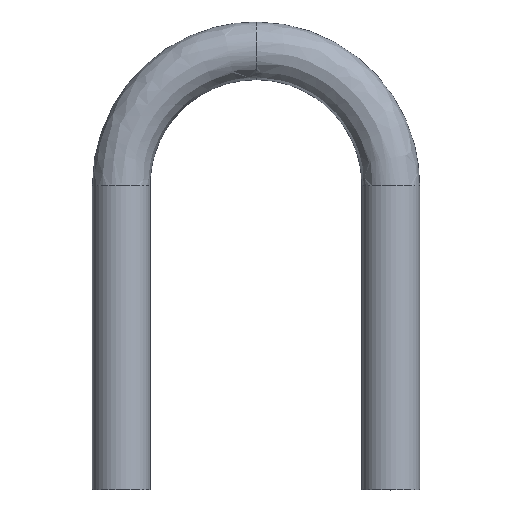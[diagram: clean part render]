
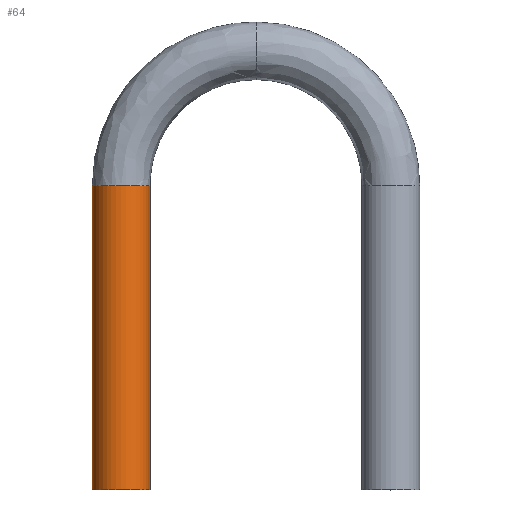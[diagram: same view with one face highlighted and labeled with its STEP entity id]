
A CAD part, top view. The second image highlights one B-rep face of the part: STEP entity #64.
In plain terms, the highlighted cylindrical face has radius 4.763 mm (diameter 9.525 mm), a partial arc.
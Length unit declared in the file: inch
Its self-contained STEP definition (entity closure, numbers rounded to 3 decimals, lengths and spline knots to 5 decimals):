
#64=ADVANCED_FACE('',(#117),#118,.T.);
#117=FACE_OUTER_BOUND('',#248,.T.);
#118=CYLINDRICAL_SURFACE('',#249,0.1875);
#248=EDGE_LOOP('',(#489,#490,#491,#492));
#249=AXIS2_PLACEMENT_3D('',#493,#494,#495);
#489=ORIENTED_EDGE('',*,*,#548,.F.);
#490=ORIENTED_EDGE('',*,*,#536,.T.);
#491=ORIENTED_EDGE('',*,*,#549,.F.);
#492=ORIENTED_EDGE('',*,*,#550,.T.);
#493=CARTESIAN_POINT('',(0.0,0.0,0.0));
#494=DIRECTION('',(-0.0,-1.0,-0.0));
#495=DIRECTION('',(-1.0,0.0,0.0));
#536=EDGE_CURVE('',#565,#566,#567,.T.);
#548=EDGE_CURVE('',#565,#585,#586,.T.);
#549=EDGE_CURVE('',#587,#566,#588,.T.);
#550=EDGE_CURVE('',#587,#585,#589,.T.);
#565=VERTEX_POINT('',#604);
#566=VERTEX_POINT('',#605);
#567=CIRCLE('',#606,0.1875);
#585=VERTEX_POINT('',#634);
#586=LINE('',#635,#636);
#587=VERTEX_POINT('',#637);
#588=LINE('',#638,#639);
#589=CIRCLE('',#640,0.1875);
#604=CARTESIAN_POINT('',(-0.1875,0.0,0.0));
#605=CARTESIAN_POINT('',(0.1875,0.0,0.));
#606=AXIS2_PLACEMENT_3D('',#666,#667,#668);
#634=CARTESIAN_POINT('',(-0.1875,1.975,0.0));
#635=CARTESIAN_POINT('',(-0.1875,0.0,0.));
#636=VECTOR('',#684,1.0);
#637=CARTESIAN_POINT('',(0.1875,1.975,0.));
#638=CARTESIAN_POINT('',(0.1875,0.0,0.));
#639=VECTOR('',#685,1.0);
#640=AXIS2_PLACEMENT_3D('',#686,#687,#688);
#666=CARTESIAN_POINT('',(0.0,0.0,0.0));
#667=DIRECTION('',(0.0,1.0,0.0));
#668=DIRECTION('',(-1.0,0.0,0.0));
#684=DIRECTION('',(0.0,1.0,0.0));
#685=DIRECTION('',(-0.0,-1.0,-0.0));
#686=CARTESIAN_POINT('',(0.0,1.975,0.0));
#687=DIRECTION('',(-0.0,-1.0,-0.0));
#688=DIRECTION('',(-1.0,0.0,0.0));
